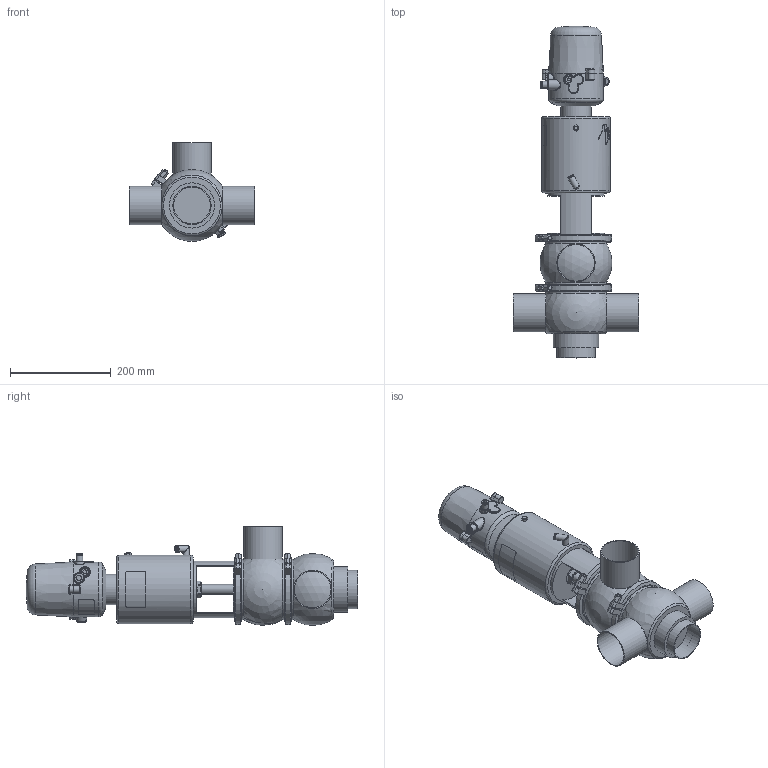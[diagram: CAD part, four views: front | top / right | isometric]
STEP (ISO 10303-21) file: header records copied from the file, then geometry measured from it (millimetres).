
FILE_DESCRIPTION (( 'STEP AP214' ), '1' );
FILE_NAME ('INNOVA K F W OD 3 T3 AS NC & C-TOP S_10.240.16.0079.STEP', '2024-08-06T09:12:53', ( '' ), ( '' ), 'SwSTEP 2.0', 'SolidWorks 2023', '' );
FILE_SCHEMA (( 'AUTOMOTIVE_DESIGN' ));
Length unit declared in the file: millimetre
Products named in the file (8): 10.240.15.0017_Estàndard; INNOVA K F W OD 3 T3 AS NC & C-TOP S_10.240.16.0079; 10.426.15.0001_C-TOP S - 1 EV; 10.240.15.0006_OD 3"; 10.240.15.0010_DN 080; 10.240.15.0014_T3 AS P0; 10.240.15.0003_OD 3"; 10.240.15.0001_DN 080
Assembly tree (8 placements, depth 2):
  INNOVA K F W OD 3 T3 AS NC & C-TOP S_10.240.16.0079
    10.240.15.0006_OD 3"
    10.240.15.0003_OD 3"
    10.240.15.0010_DN 080
    10.240.15.0014_T3 AS P0
    10.240.15.0017_Estàndard
    10.426.15.0001_C-TOP S - 1 EV
    10.240.15.0001_DN 080  x2
Bounding box: 250 x 660 x 196.5 mm (x, y, z)
Volume: 6830844.9 mm3; surface area: 556428 mm2
Topology: 8 solids, 8 shells, 1176 faces, 2839 edges, 1891 vertices
Faces by surface type: plane 411, cylinder 358, cone 201, bspline 160, torus 37, sphere 9
Full cylindrical faces by diameter (mm): 0.371 x17, 0.512 x16, 0.658 x16, 0.795 x16, 0.94 x15, 1.098 x15, 1.241 x13, 1.382 x13, 1.523 x11, 1.669 x10, 2.201 x1, 4 x2, 5.5 x2, 6 x2, 6.15 x1, 8 x6, 8.5 x1, 10 x1, 10.5 x1, 11 x2, 12.5 x3, 13 x2, 13.5 x2, 16 x1, 17 x3, 20 x3, 20.5 x1, 22 x2, 31 x1, 34.5 x3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
Entity records: 58115 total; most frequent: CARTESIAN_POINT 27852, ORIENTED_EDGE 4516, DIRECTION 3663, EDGE_CURVE 2258, VERTEX_POINT 1609, EDGE_LOOP 1579, AXIS2_PLACEMENT_3D 1503, FACE_OUTER_BOUND 1337
